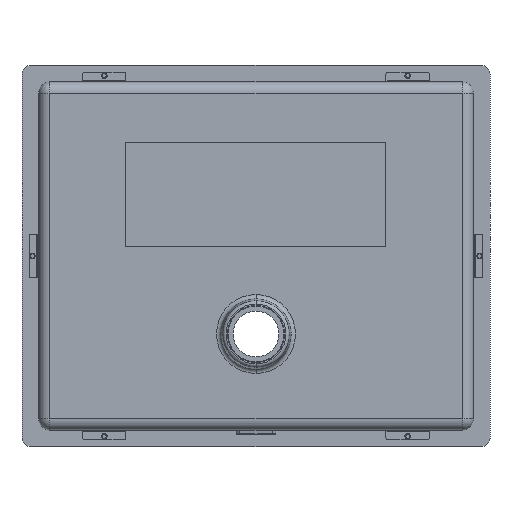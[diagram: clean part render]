
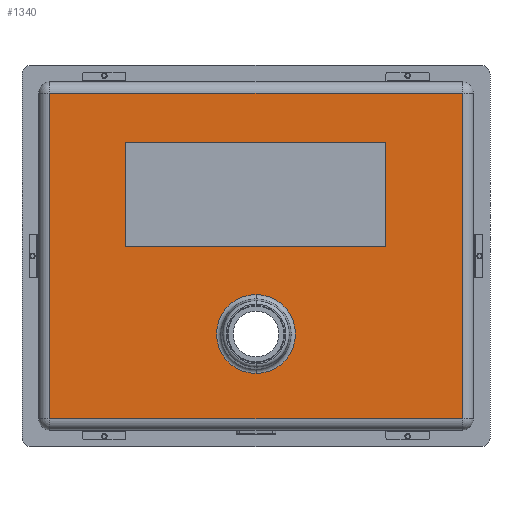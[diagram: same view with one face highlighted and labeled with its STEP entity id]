
A CAD part, front view. The second image highlights one B-rep face of the part: STEP entity #1340.
In plain terms, the highlighted planar face has unit normal (0, -1, 0).
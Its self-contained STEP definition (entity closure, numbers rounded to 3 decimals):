
#141 = CARTESIAN_POINT ( 'NONE',  ( 270., -200.9, 175.535 ) ) ;
#237 = CARTESIAN_POINT ( 'NONE',  ( 32., -200.9, 408. ) ) ;
#239 = LINE ( 'NONE', #3728, #4699 ) ;
#494 = VERTEX_POINT ( 'NONE', #6262 ) ;
#555 = VECTOR ( 'NONE', #1576, 1000. ) ;
#569 = VERTEX_POINT ( 'NONE', #237 ) ;
#741 = LINE ( 'NONE', #6190, #3435 ) ;
#943 = ORIENTED_EDGE ( 'NONE', *, *, #5115, .F. ) ;
#1340 = ADVANCED_FACE ( 'NONE', ( #3902, #1435 ), #4412, .F. ) ;
#1435 = FACE_OUTER_BOUND ( 'NONE', #3370, .T. ) ;
#1576 = DIRECTION ( 'NONE',  ( 0., 0., -1. ) ) ;
#1830 = CIRCLE ( 'NONE', #2353, 45.535 ) ;
#1868 = VERTEX_POINT ( 'NONE', #3399 ) ;
#1928 = ORIENTED_EDGE ( 'NONE', *, *, #2617, .F. ) ;
#2328 = DIRECTION ( 'NONE',  ( 0., -1., 0. ) ) ;
#2353 = AXIS2_PLACEMENT_3D ( 'NONE', #5576, #5055, #2625 ) ;
#2491 = EDGE_CURVE ( 'NONE', #4086, #569, #741, .T. ) ;
#2617 = EDGE_CURVE ( 'NONE', #569, #494, #6313, .T. ) ;
#2625 = DIRECTION ( 'NONE',  ( 0., 0., 1. ) ) ;
#2688 = CARTESIAN_POINT ( 'NONE',  ( 270., -200.9, 130. ) ) ;
#2923 = EDGE_LOOP ( 'NONE', ( #6326, #943 ) ) ;
#2984 = CARTESIAN_POINT ( 'NONE',  ( 0., -200.9, 408. ) ) ;
#3043 = AXIS2_PLACEMENT_3D ( 'NONE', #2688, #2328, #4735 ) ;
#3294 = CARTESIAN_POINT ( 'NONE',  ( 0., -200.9, 0. ) ) ;
#3370 = EDGE_LOOP ( 'NONE', ( #1928, #4120, #5636, #5313 ) ) ;
#3399 = CARTESIAN_POINT ( 'NONE',  ( 508., -200.9, 32. ) ) ;
#3409 = EDGE_CURVE ( 'NONE', #494, #1868, #3503, .T. ) ;
#3435 = VECTOR ( 'NONE', #6283, 1000. ) ;
#3503 = LINE ( 'NONE', #4494, #555 ) ;
#3572 = EDGE_CURVE ( 'NONE', #3943, #4645, #4891, .T. ) ;
#3630 = AXIS2_PLACEMENT_3D ( 'NONE', #3294, #3803, #3866 ) ;
#3728 = CARTESIAN_POINT ( 'NONE',  ( 0., -200.9, 32. ) ) ;
#3791 = DIRECTION ( 'NONE',  ( -1., 0., 0. ) ) ;
#3803 = DIRECTION ( 'NONE',  ( 0., 1., 0. ) ) ;
#3866 = DIRECTION ( 'NONE',  ( 0., 0., 1. ) ) ;
#3902 = FACE_BOUND ( 'NONE', #2923, .T. ) ;
#3943 = VERTEX_POINT ( 'NONE', #141 ) ;
#4086 = VERTEX_POINT ( 'NONE', #4264 ) ;
#4120 = ORIENTED_EDGE ( 'NONE', *, *, #2491, .F. ) ;
#4264 = CARTESIAN_POINT ( 'NONE',  ( 32., -200.9, 32. ) ) ;
#4412 = PLANE ( 'NONE',  #3630 ) ;
#4494 = CARTESIAN_POINT ( 'NONE',  ( 508., -200.9, 0. ) ) ;
#4645 = VERTEX_POINT ( 'NONE', #4741 ) ;
#4699 = VECTOR ( 'NONE', #3791, 1000. ) ;
#4735 = DIRECTION ( 'NONE',  ( 0., 0., 1. ) ) ;
#4741 = CARTESIAN_POINT ( 'NONE',  ( 270., -200.9, 84.465 ) ) ;
#4891 = CIRCLE ( 'NONE', #3043, 45.535 ) ;
#4902 = DIRECTION ( 'NONE',  ( 1., 0., 0. ) ) ;
#5055 = DIRECTION ( 'NONE',  ( 0., -1., 0. ) ) ;
#5115 = EDGE_CURVE ( 'NONE', #4645, #3943, #1830, .T. ) ;
#5151 = EDGE_CURVE ( 'NONE', #1868, #4086, #239, .T. ) ;
#5313 = ORIENTED_EDGE ( 'NONE', *, *, #3409, .F. ) ;
#5576 = CARTESIAN_POINT ( 'NONE',  ( 270., -200.9, 130. ) ) ;
#5636 = ORIENTED_EDGE ( 'NONE', *, *, #5151, .F. ) ;
#6190 = CARTESIAN_POINT ( 'NONE',  ( 32., -200.9, 0. ) ) ;
#6262 = CARTESIAN_POINT ( 'NONE',  ( 508., -200.9, 408. ) ) ;
#6283 = DIRECTION ( 'NONE',  ( 0., 0., 1. ) ) ;
#6313 = LINE ( 'NONE', #2984, #6316 ) ;
#6316 = VECTOR ( 'NONE', #4902, 1000. ) ;
#6326 = ORIENTED_EDGE ( 'NONE', *, *, #3572, .F. ) ;
